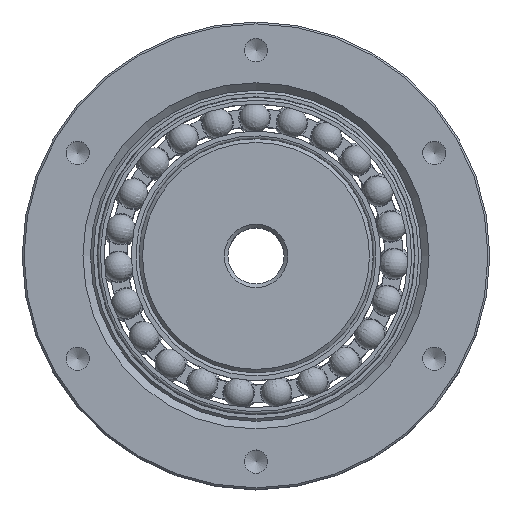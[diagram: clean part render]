
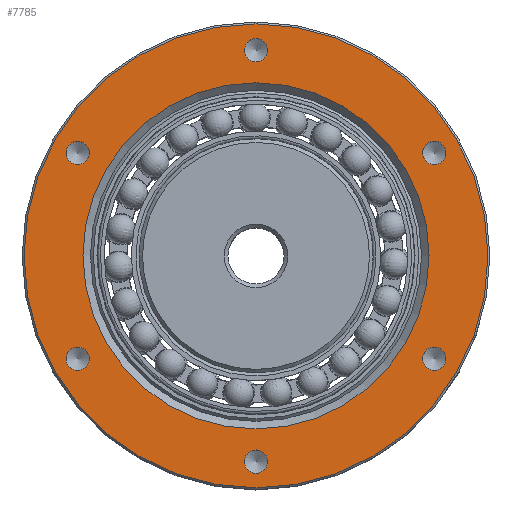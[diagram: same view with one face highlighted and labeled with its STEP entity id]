
A CAD part, top view. The second image highlights one B-rep face of the part: STEP entity #7785.
In plain terms, the highlighted planar face has unit normal (0, 0, 1).
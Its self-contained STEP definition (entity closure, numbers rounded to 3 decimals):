
#130 = EDGE_CURVE ( 'NONE', #912, #912, #4297, .T. ) ;
#147 = CARTESIAN_POINT ( 'NONE',  ( 0., 0., 9. ) ) ;
#174 = AXIS2_PLACEMENT_3D ( 'NONE', #7119, #2693, #7859 ) ;
#670 = EDGE_LOOP ( 'NONE', ( #7596 ) ) ;
#868 = AXIS2_PLACEMENT_3D ( 'NONE', #6231, #6413, #6113 ) ;
#900 = DIRECTION ( 'NONE',  ( 1., 0., 0. ) ) ;
#912 = VERTEX_POINT ( 'NONE', #5509 ) ;
#992 = DIRECTION ( 'NONE',  ( 1., 0., 0. ) ) ;
#1073 = AXIS2_PLACEMENT_3D ( 'NONE', #7998, #6571, #6638 ) ;
#1080 = AXIS2_PLACEMENT_3D ( 'NONE', #8729, #4282, #9471 ) ;
#1197 = AXIS2_PLACEMENT_3D ( 'NONE', #3935, #5396, #992 ) ;
#1255 = AXIS2_PLACEMENT_3D ( 'NONE', #147, #5302, #900 ) ;
#1268 = CARTESIAN_POINT ( 'NONE',  ( 17.803, 11., 9. ) ) ;
#1687 = EDGE_CURVE ( 'NONE', #9500, #9500, #9357, .T. ) ;
#1824 = EDGE_CURVE ( 'NONE', #9490, #9490, #8343, .T. ) ;
#2327 = AXIS2_PLACEMENT_3D ( 'NONE', #4301, #9485, #5035 ) ;
#2343 = FACE_OUTER_BOUND ( 'NONE', #6187, .T. ) ;
#2354 = FACE_BOUND ( 'NONE', #9447, .T. ) ;
#2366 = FACE_BOUND ( 'NONE', #4963, .T. ) ;
#2452 = FACE_BOUND ( 'NONE', #6436, .T. ) ;
#2465 = FACE_BOUND ( 'NONE', #7376, .T. ) ;
#2471 = FACE_BOUND ( 'NONE', #6997, .T. ) ;
#2492 = EDGE_CURVE ( 'NONE', #9156, #9156, #4731, .T. ) ;
#2554 = FACE_BOUND ( 'NONE', #9222, .T. ) ;
#2662 = CARTESIAN_POINT ( 'NONE',  ( -1.25, -22., 9. ) ) ;
#2693 = DIRECTION ( 'NONE',  ( 0., 0., 1. ) ) ;
#2785 = FACE_BOUND ( 'NONE', #670, .T. ) ;
#3079 = AXIS2_PLACEMENT_3D ( 'NONE', #5296, #8751, #7491 ) ;
#3298 = EDGE_CURVE ( 'NONE', #8448, #8448, #8509, .T. ) ;
#3935 = CARTESIAN_POINT ( 'NONE',  ( 0., -25., 9. ) ) ;
#4041 = EDGE_CURVE ( 'NONE', #8127, #8127, #9315, .T. ) ;
#4282 = DIRECTION ( 'NONE',  ( 0., 0., 1. ) ) ;
#4297 = CIRCLE ( 'NONE', #1073, 1.25 ) ;
#4301 = CARTESIAN_POINT ( 'NONE',  ( -19.053, 11., 9. ) ) ;
#4618 = DIRECTION ( 'NONE',  ( 0., 0., 1. ) ) ;
#4731 = CIRCLE ( 'NONE', #868, 1.25 ) ;
#4963 = EDGE_LOOP ( 'NONE', ( #7704 ) ) ;
#5035 = DIRECTION ( 'NONE',  ( -1., 0., 0. ) ) ;
#5263 = DIRECTION ( 'NONE',  ( 1., 0., 0. ) ) ;
#5296 = CARTESIAN_POINT ( 'NONE',  ( 0., -22., 9. ) ) ;
#5302 = DIRECTION ( 'NONE',  ( 0., 0., -1. ) ) ;
#5310 = VERTEX_POINT ( 'NONE', #8113 ) ;
#5324 = CARTESIAN_POINT ( 'NONE',  ( 0., 0., 9. ) ) ;
#5396 = DIRECTION ( 'NONE',  ( 0., 0., -1. ) ) ;
#5509 = CARTESIAN_POINT ( 'NONE',  ( -20.303, -11., 9. ) ) ;
#5610 = CARTESIAN_POINT ( 'NONE',  ( 17.803, -11., 9. ) ) ;
#6113 = DIRECTION ( 'NONE',  ( -1., 0., 0. ) ) ;
#6187 = EDGE_LOOP ( 'NONE', ( #9000 ) ) ;
#6231 = CARTESIAN_POINT ( 'NONE',  ( 19.053, -11., 9. ) ) ;
#6413 = DIRECTION ( 'NONE',  ( 0., 0., 1. ) ) ;
#6436 = EDGE_LOOP ( 'NONE', ( #7713 ) ) ;
#6470 = VERTEX_POINT ( 'NONE', #9525 ) ;
#6571 = DIRECTION ( 'NONE',  ( 0., 0., 1. ) ) ;
#6615 = CIRCLE ( 'NONE', #1255, 18.5 ) ;
#6638 = DIRECTION ( 'NONE',  ( -1., 0., 0. ) ) ;
#6785 = ORIENTED_EDGE ( 'NONE', *, *, #2492, .F. ) ;
#6883 = PLANE ( 'NONE',  #1197 ) ;
#6997 = EDGE_LOOP ( 'NONE', ( #6785 ) ) ;
#7109 = ORIENTED_EDGE ( 'NONE', *, *, #4041, .F. ) ;
#7119 = CARTESIAN_POINT ( 'NONE',  ( 0., 22., 9. ) ) ;
#7157 = EDGE_CURVE ( 'NONE', #6470, #6470, #6615, .T. ) ;
#7376 = EDGE_LOOP ( 'NONE', ( #7109 ) ) ;
#7476 = ORIENTED_EDGE ( 'NONE', *, *, #8592, .F. ) ;
#7491 = DIRECTION ( 'NONE',  ( -1., 0., 0. ) ) ;
#7596 = ORIENTED_EDGE ( 'NONE', *, *, #3298, .F. ) ;
#7704 = ORIENTED_EDGE ( 'NONE', *, *, #1687, .F. ) ;
#7713 = ORIENTED_EDGE ( 'NONE', *, *, #130, .F. ) ;
#7785 = ADVANCED_FACE ( 'NONE', ( #2471, #2465, #2554, #2785, #2452, #2366, #2354, #2343 ), #6883, .F. ) ;
#7843 = CARTESIAN_POINT ( 'NONE',  ( 24.8, 0., 9. ) ) ;
#7859 = DIRECTION ( 'NONE',  ( -1., 0., 0. ) ) ;
#7908 = CARTESIAN_POINT ( 'NONE',  ( -20.303, 11., 9. ) ) ;
#7998 = CARTESIAN_POINT ( 'NONE',  ( -19.053, -11., 9. ) ) ;
#8113 = CARTESIAN_POINT ( 'NONE',  ( -1.25, 22., 9. ) ) ;
#8127 = VERTEX_POINT ( 'NONE', #1268 ) ;
#8343 = CIRCLE ( 'NONE', #8539, 24.8 ) ;
#8448 = VERTEX_POINT ( 'NONE', #7908 ) ;
#8509 = CIRCLE ( 'NONE', #2327, 1.25 ) ;
#8539 = AXIS2_PLACEMENT_3D ( 'NONE', #5324, #4618, #5263 ) ;
#8592 = EDGE_CURVE ( 'NONE', #5310, #5310, #9228, .T. ) ;
#8729 = CARTESIAN_POINT ( 'NONE',  ( 19.053, 11., 9. ) ) ;
#8751 = DIRECTION ( 'NONE',  ( 0., 0., 1. ) ) ;
#9000 = ORIENTED_EDGE ( 'NONE', *, *, #1824, .T. ) ;
#9107 = ORIENTED_EDGE ( 'NONE', *, *, #7157, .T. ) ;
#9156 = VERTEX_POINT ( 'NONE', #5610 ) ;
#9222 = EDGE_LOOP ( 'NONE', ( #7476 ) ) ;
#9228 = CIRCLE ( 'NONE', #174, 1.25 ) ;
#9315 = CIRCLE ( 'NONE', #1080, 1.25 ) ;
#9357 = CIRCLE ( 'NONE', #3079, 1.25 ) ;
#9447 = EDGE_LOOP ( 'NONE', ( #9107 ) ) ;
#9471 = DIRECTION ( 'NONE',  ( -1., 0., 0. ) ) ;
#9485 = DIRECTION ( 'NONE',  ( 0., 0., 1. ) ) ;
#9490 = VERTEX_POINT ( 'NONE', #7843 ) ;
#9500 = VERTEX_POINT ( 'NONE', #2662 ) ;
#9525 = CARTESIAN_POINT ( 'NONE',  ( 18.5, 0., 9. ) ) ;
